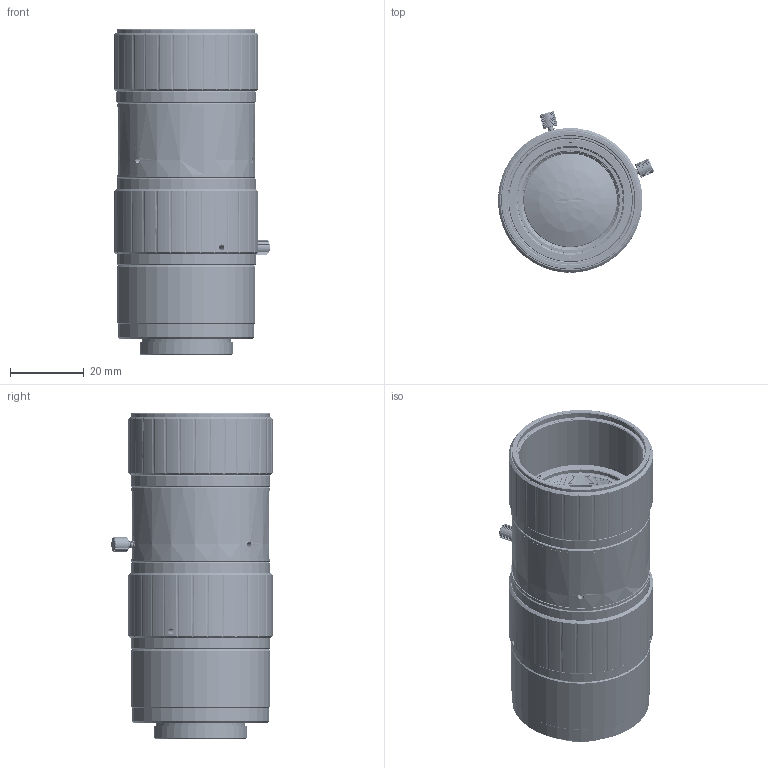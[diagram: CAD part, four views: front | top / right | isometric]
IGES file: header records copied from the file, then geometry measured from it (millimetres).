
Start section: SolidWorks IGES file using analytic representation for surfaces
Global section: file name: F:\产品\产品图\90本公司\MJ9943xx12\MJ994375120\装配\总装\QM994375121总装\MFA121-U75.IGS,15HSolidWorks; native system: 2018; preprocessor: SolidWorks 2018; author: hai; date: 240111.141339; units: millimetre
Bounding box: 42.37 x 43.83 x 88.63 mm (x, y, z)
Surface area: 56596.9 mm2 (no closed solid volume)
Topology: 0 solids, 0 shells, 1857 faces, 20447 edges, 20435 vertices
Faces by surface type: revolution 1196, bspline 661
